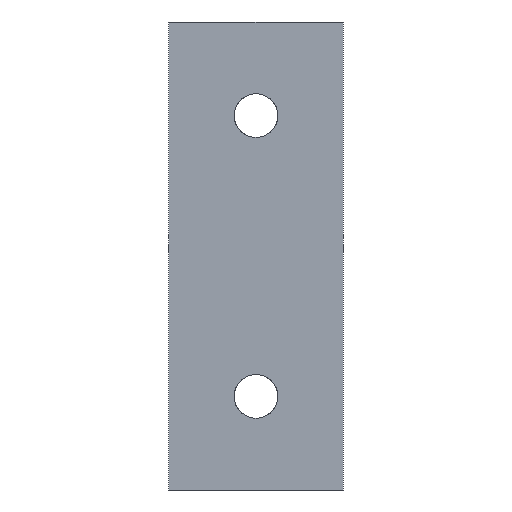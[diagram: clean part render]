
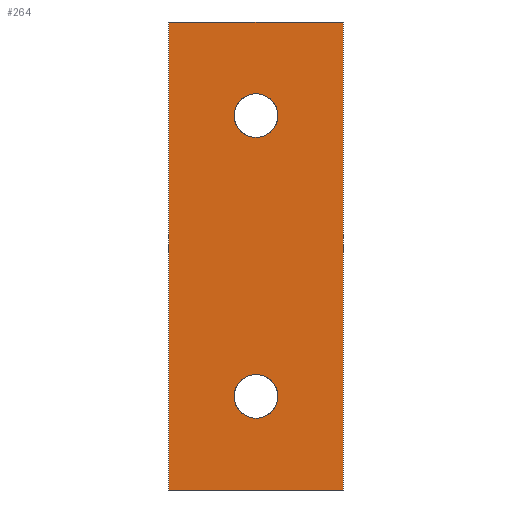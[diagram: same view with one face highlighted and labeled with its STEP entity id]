
A CAD part, front view. The second image highlights one B-rep face of the part: STEP entity #264.
In plain terms, the highlighted face is a extrusion surface.
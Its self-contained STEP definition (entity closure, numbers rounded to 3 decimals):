
#141=CARTESIAN_POINT('Control Point',(-14.,-5.,37.5)) ;
#142=CARTESIAN_POINT('Control Point',(-14.,-5.,-37.5)) ;
#146=CARTESIAN_POINT('Line Origine',(0.,-5.,-37.5)) ;
#150=CARTESIAN_POINT('Vertex',(-14.,-5.,-37.5)) ;
#152=CARTESIAN_POINT('Vertex',(14.,-5.,-37.5)) ;
#155=CARTESIAN_POINT('Line Origine',(14.,-5.,0.)) ;
#159=CARTESIAN_POINT('Vertex',(14.,-5.,37.5)) ;
#162=CARTESIAN_POINT('Line Origine',(0.,-5.,37.5)) ;
#166=CARTESIAN_POINT('Vertex',(-14.,-5.,37.5)) ;
#169=CARTESIAN_POINT('Line Origine',(-14.,-5.,0.)) ;
#181=CARTESIAN_POINT('Control Point',(3.5,-5.,22.5)) ;
#182=CARTESIAN_POINT('Control Point',(3.5,-5.,21.767)) ;
#183=CARTESIAN_POINT('Control Point',(3.308,-5.,21.034)) ;
#184=CARTESIAN_POINT('Control Point',(2.923,-5.,20.368)) ;
#185=CARTESIAN_POINT('Control Point',(2.115,-5.,19.569)) ;
#186=CARTESIAN_POINT('Control Point',(1.09,-5.,19.144)) ;
#187=CARTESIAN_POINT('Control Point',(0.732,-5.,19.048)) ;
#188=CARTESIAN_POINT('Control Point',(-0.001,-5.,18.952)) ;
#189=CARTESIAN_POINT('Control Point',(-0.734,-5.,19.048)) ;
#190=CARTESIAN_POINT('Control Point',(-1.093,-5.,19.144)) ;
#191=CARTESIAN_POINT('Control Point',(-2.116,-5.,19.57)) ;
#192=CARTESIAN_POINT('Control Point',(-2.924,-5.,20.369)) ;
#193=CARTESIAN_POINT('Control Point',(-3.308,-5.,21.035)) ;
#194=CARTESIAN_POINT('Control Point',(-3.5,-5.,21.767)) ;
#195=CARTESIAN_POINT('Control Point',(-3.5,-5.,22.5)) ;
#196=CARTESIAN_POINT('Vertex',(3.5,-5.,22.5)) ;
#198=CARTESIAN_POINT('Vertex',(-3.5,-5.,22.5)) ;
#202=CARTESIAN_POINT('Control Point',(-3.5,-5.,22.5)) ;
#203=CARTESIAN_POINT('Control Point',(-3.5,-5.,23.233)) ;
#204=CARTESIAN_POINT('Control Point',(-3.308,-5.,23.966)) ;
#205=CARTESIAN_POINT('Control Point',(-2.923,-5.,24.632)) ;
#206=CARTESIAN_POINT('Control Point',(-2.115,-5.,25.431)) ;
#207=CARTESIAN_POINT('Control Point',(-1.09,-5.,25.856)) ;
#208=CARTESIAN_POINT('Control Point',(-0.732,-5.,25.952)) ;
#209=CARTESIAN_POINT('Control Point',(0.001,-5.,26.048)) ;
#210=CARTESIAN_POINT('Control Point',(0.734,-5.,25.952)) ;
#211=CARTESIAN_POINT('Control Point',(1.093,-5.,25.856)) ;
#212=CARTESIAN_POINT('Control Point',(2.116,-5.,25.43)) ;
#213=CARTESIAN_POINT('Control Point',(2.924,-5.,24.631)) ;
#214=CARTESIAN_POINT('Control Point',(3.308,-5.,23.965)) ;
#215=CARTESIAN_POINT('Control Point',(3.5,-5.,23.233)) ;
#216=CARTESIAN_POINT('Control Point',(3.5,-5.,22.5)) ;
#223=CARTESIAN_POINT('Control Point',(3.5,-5.,-22.5)) ;
#224=CARTESIAN_POINT('Control Point',(3.5,-5.,-23.233)) ;
#225=CARTESIAN_POINT('Control Point',(3.308,-5.,-23.966)) ;
#226=CARTESIAN_POINT('Control Point',(2.923,-5.,-24.632)) ;
#227=CARTESIAN_POINT('Control Point',(2.115,-5.,-25.431)) ;
#228=CARTESIAN_POINT('Control Point',(1.09,-5.,-25.856)) ;
#229=CARTESIAN_POINT('Control Point',(0.732,-5.,-25.952)) ;
#230=CARTESIAN_POINT('Control Point',(-0.001,-5.,-26.048)) ;
#231=CARTESIAN_POINT('Control Point',(-0.734,-5.,-25.952)) ;
#232=CARTESIAN_POINT('Control Point',(-1.093,-5.,-25.856)) ;
#233=CARTESIAN_POINT('Control Point',(-2.116,-5.,-25.43)) ;
#234=CARTESIAN_POINT('Control Point',(-2.924,-5.,-24.631)) ;
#235=CARTESIAN_POINT('Control Point',(-3.308,-5.,-23.965)) ;
#236=CARTESIAN_POINT('Control Point',(-3.5,-5.,-23.233)) ;
#237=CARTESIAN_POINT('Control Point',(-3.5,-5.,-22.5)) ;
#238=CARTESIAN_POINT('Vertex',(3.5,-5.,-22.5)) ;
#240=CARTESIAN_POINT('Vertex',(-3.5,-5.,-22.5)) ;
#244=CARTESIAN_POINT('Control Point',(-3.5,-5.,-22.5)) ;
#245=CARTESIAN_POINT('Control Point',(-3.5,-5.,-21.767)) ;
#246=CARTESIAN_POINT('Control Point',(-3.308,-5.,-21.034)) ;
#247=CARTESIAN_POINT('Control Point',(-2.923,-5.,-20.368)) ;
#248=CARTESIAN_POINT('Control Point',(-2.115,-5.,-19.569)) ;
#249=CARTESIAN_POINT('Control Point',(-1.09,-5.,-19.144)) ;
#250=CARTESIAN_POINT('Control Point',(-0.732,-5.,-19.048)) ;
#251=CARTESIAN_POINT('Control Point',(0.001,-5.,-18.952)) ;
#252=CARTESIAN_POINT('Control Point',(0.734,-5.,-19.048)) ;
#253=CARTESIAN_POINT('Control Point',(1.093,-5.,-19.144)) ;
#254=CARTESIAN_POINT('Control Point',(2.116,-5.,-19.57)) ;
#255=CARTESIAN_POINT('Control Point',(2.924,-5.,-20.369)) ;
#256=CARTESIAN_POINT('Control Point',(3.308,-5.,-21.035)) ;
#257=CARTESIAN_POINT('Control Point',(3.5,-5.,-21.767)) ;
#258=CARTESIAN_POINT('Control Point',(3.5,-5.,-22.5)) ;
#143=DIRECTION('Vector Direction',(1.,0.,0.)) ;
#147=DIRECTION('Vector Direction',(1.,0.,0.)) ;
#156=DIRECTION('Vector Direction',(0.,0.,-1.)) ;
#163=DIRECTION('Vector Direction',(1.,0.,0.)) ;
#170=DIRECTION('Vector Direction',(0.,0.,-1.)) ;
#175=ORIENTED_EDGE('',*,*,#154,.T.) ;
#176=ORIENTED_EDGE('',*,*,#161,.T.) ;
#177=ORIENTED_EDGE('',*,*,#168,.T.) ;
#178=ORIENTED_EDGE('',*,*,#173,.T.) ;
#219=ORIENTED_EDGE('',*,*,#200,.T.) ;
#220=ORIENTED_EDGE('',*,*,#217,.T.) ;
#261=ORIENTED_EDGE('',*,*,#242,.T.) ;
#262=ORIENTED_EDGE('',*,*,#259,.T.) ;
#221=FACE_BOUND('',#218,.T.) ;
#263=FACE_BOUND('',#260,.T.) ;
#144=VECTOR('Extrusion Surface Vector',#143,1.) ;
#148=VECTOR('Line Direction',#147,1.) ;
#157=VECTOR('Line Direction',#156,1.) ;
#164=VECTOR('Line Direction',#163,1.) ;
#171=VECTOR('Line Direction',#170,1.) ;
#264=ADVANCED_FACE('Superficie.3',(#179,#221,#263),#145,.T.) ;
#140=B_SPLINE_CURVE_WITH_KNOTS('',1,(#141,#142),.UNSPECIFIED.,.F.,.U.,(2,2),(-37.5,37.5),.UNSPECIFIED.) ;
#180=B_SPLINE_CURVE_WITH_KNOTS('',5,(#181,#182,#183,#184,#185,#186,#187,#188,#189,#190,#191,#192,#193,#194,#195),.UNSPECIFIED.,.F.,.U.,(6,3,3,3,6),(0.,5.185,7.777,10.369,15.55),.UNSPECIFIED.) ;
#201=B_SPLINE_CURVE_WITH_KNOTS('',5,(#202,#203,#204,#205,#206,#207,#208,#209,#210,#211,#212,#213,#214,#215,#216),.UNSPECIFIED.,.F.,.U.,(6,3,3,3,6),(0.,5.185,7.777,10.369,15.55),.UNSPECIFIED.) ;
#222=B_SPLINE_CURVE_WITH_KNOTS('',5,(#223,#224,#225,#226,#227,#228,#229,#230,#231,#232,#233,#234,#235,#236,#237),.UNSPECIFIED.,.F.,.U.,(6,3,3,3,6),(0.,5.185,7.777,10.369,15.55),.UNSPECIFIED.) ;
#243=B_SPLINE_CURVE_WITH_KNOTS('',5,(#244,#245,#246,#247,#248,#249,#250,#251,#252,#253,#254,#255,#256,#257,#258),.UNSPECIFIED.,.F.,.U.,(6,3,3,3,6),(0.,5.185,7.777,10.369,15.55),.UNSPECIFIED.) ;
#154=EDGE_CURVE('',#151,#153,#149,.T.) ;
#161=EDGE_CURVE('',#153,#160,#158,.F.) ;
#168=EDGE_CURVE('',#160,#167,#165,.F.) ;
#173=EDGE_CURVE('',#167,#151,#172,.T.) ;
#200=EDGE_CURVE('',#197,#199,#180,.T.) ;
#217=EDGE_CURVE('',#199,#197,#201,.T.) ;
#242=EDGE_CURVE('',#239,#241,#222,.T.) ;
#259=EDGE_CURVE('',#241,#239,#243,.T.) ;
#174=EDGE_LOOP('',(#175,#176,#177,#178)) ;
#218=EDGE_LOOP('',(#219,#220)) ;
#260=EDGE_LOOP('',(#261,#262)) ;
#179=FACE_OUTER_BOUND('',#174,.T.) ;
#149=LINE('Line',#146,#148) ;
#158=LINE('Line',#155,#157) ;
#165=LINE('Line',#162,#164) ;
#172=LINE('Line',#169,#171) ;
#145=SURFACE_OF_LINEAR_EXTRUSION('generated tabulated cylinder',#140,#144) ;
#151=VERTEX_POINT('',#150) ;
#153=VERTEX_POINT('',#152) ;
#160=VERTEX_POINT('',#159) ;
#167=VERTEX_POINT('',#166) ;
#197=VERTEX_POINT('',#196) ;
#199=VERTEX_POINT('',#198) ;
#239=VERTEX_POINT('',#238) ;
#241=VERTEX_POINT('',#240) ;
